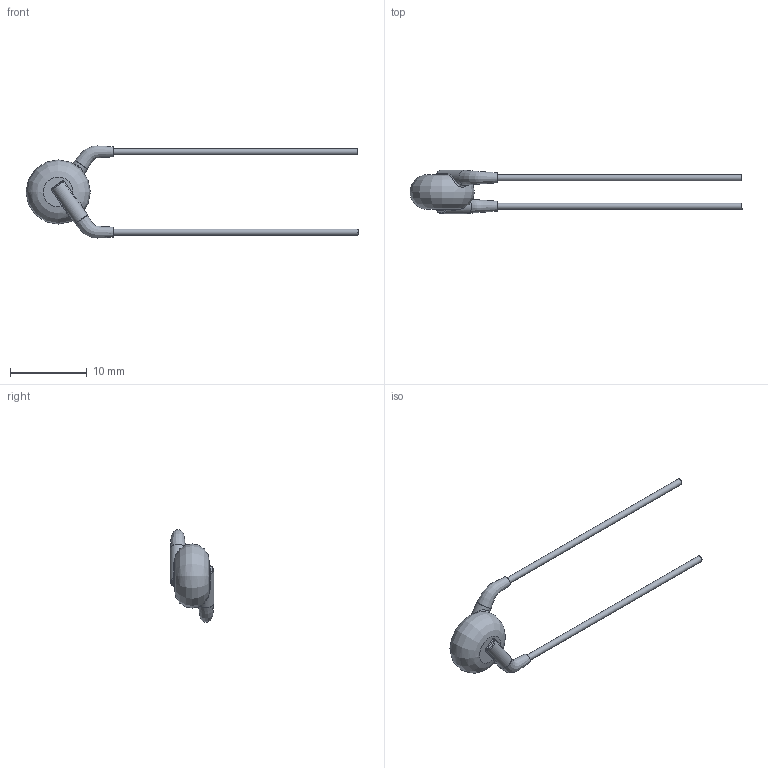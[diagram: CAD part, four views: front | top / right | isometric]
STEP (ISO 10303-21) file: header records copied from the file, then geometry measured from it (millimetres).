
FILE_DESCRIPTION(/* description */ (''),/* implementation_level */ '2;1');
FILE_NAME(/* name */ 'I:\Marketing\M6t1\3D-Models\Zchng-Werk-3\Upload for homepage\Ceramite\X7R\440LT33-R\440LT33-R.stp',/* time_stamp */ '2016-11-10T13:54:52+01:00',/* author */ ('sheinrich'),/* organization */ (''),/* preprocessor_version */ 'ST-DEVELOPER v16.1',/* originating_system */ 'Autodesk Inventor 2016',/* authorisation */ '');
FILE_SCHEMA (('AUTOMOTIVE_DESIGN { 1 0 10303 214 3 1 1 }'));
Length unit declared in the file: millimetre
Products named in the file (1): 440LT33-R
Bounding box: 43.4 x 5.7 x 12.03 mm (x, y, z)
Volume: 268.6 mm3; surface area: 406 mm2
Topology: 1 solids, 1 shells, 37 faces, 81 edges, 44 vertices
Faces by surface type: bspline 13, cylinder 10, plane 8, torus 6
Full cylindrical faces by diameter (mm): 0.81 x2, 2 x2
Entity records: 2089 total; most frequent: CARTESIAN_POINT 1325, ORIENTED_EDGE 142, DIRECTION 130, EDGE_CURVE 71, AXIS2_PLACEMENT_3D 59, EDGE_LOOP 43, VERTEX_POINT 42, STYLED_ITEM 38
